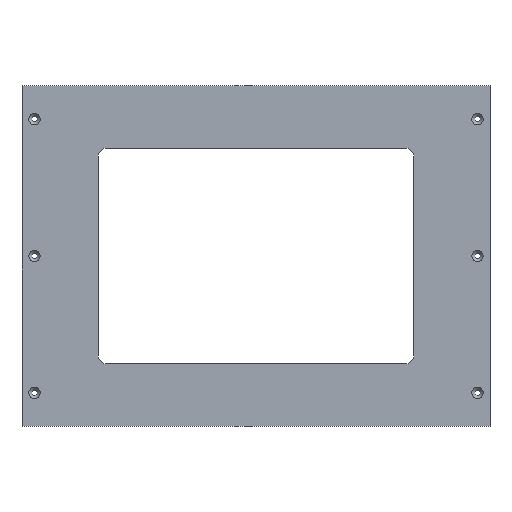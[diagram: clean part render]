
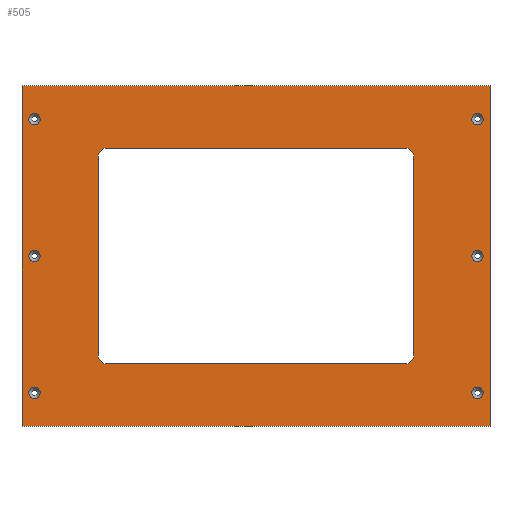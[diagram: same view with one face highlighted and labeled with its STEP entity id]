
A CAD part, top view. The second image highlights one B-rep face of the part: STEP entity #505.
In plain terms, the highlighted planar face has unit normal (0, 0, 1).
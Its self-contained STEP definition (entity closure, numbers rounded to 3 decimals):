
#31=FACE_BOUND('',#112,.T.);
#32=FACE_BOUND('',#113,.T.);
#33=FACE_BOUND('',#114,.T.);
#34=FACE_BOUND('',#115,.T.);
#35=FACE_BOUND('',#116,.T.);
#36=FACE_BOUND('',#117,.T.);
#37=FACE_BOUND('',#118,.T.);
#45=CIRCLE('',#546,6.855);
#46=CIRCLE('',#547,6.855);
#47=CIRCLE('',#548,6.855);
#48=CIRCLE('',#549,6.855);
#49=CIRCLE('',#550,6.855);
#50=CIRCLE('',#551,6.855);
#51=CIRCLE('',#552,10.);
#52=CIRCLE('',#553,10.);
#53=CIRCLE('',#554,10.);
#54=CIRCLE('',#555,10.);
#85=FACE_OUTER_BOUND('',#111,.T.);
#111=EDGE_LOOP('',(#375,#376,#377,#378));
#112=EDGE_LOOP('',(#379));
#113=EDGE_LOOP('',(#380));
#114=EDGE_LOOP('',(#381));
#115=EDGE_LOOP('',(#382));
#116=EDGE_LOOP('',(#383));
#117=EDGE_LOOP('',(#384));
#118=EDGE_LOOP('',(#385,#386,#387,#388,#389,#390,#391,#392));
#145=LINE('',#761,#185);
#149=LINE('',#768,#189);
#152=LINE('',#774,#192);
#155=LINE('',#782,#195);
#159=LINE('',#791,#199);
#161=LINE('',#796,#201);
#167=LINE('',#809,#207);
#170=LINE('',#813,#210);
#185=VECTOR('',#601,1000.);
#189=VECTOR('',#607,1000.);
#192=VECTOR('',#612,1000.);
#195=VECTOR('',#617,1000.);
#199=VECTOR('',#623,1000.);
#201=VECTOR('',#627,1000.);
#207=VECTOR('',#635,1000.);
#210=VECTOR('',#640,1000.);
#225=VERTEX_POINT('',#758);
#226=VERTEX_POINT('',#760);
#228=VERTEX_POINT('',#766);
#230=VERTEX_POINT('',#772);
#233=VERTEX_POINT('',#779);
#234=VERTEX_POINT('',#781);
#237=VERTEX_POINT('',#788);
#238=VERTEX_POINT('',#790);
#239=VERTEX_POINT('',#794);
#240=VERTEX_POINT('',#795);
#245=VERTEX_POINT('',#806);
#246=VERTEX_POINT('',#808);
#247=VERTEX_POINT('',#815);
#248=VERTEX_POINT('',#817);
#249=VERTEX_POINT('',#819);
#250=VERTEX_POINT('',#821);
#251=VERTEX_POINT('',#823);
#252=VERTEX_POINT('',#825);
#273=EDGE_CURVE('',#226,#225,#145,.T.);
#277=EDGE_CURVE('',#225,#228,#149,.T.);
#280=EDGE_CURVE('',#228,#230,#152,.T.);
#283=EDGE_CURVE('',#233,#234,#155,.T.);
#287=EDGE_CURVE('',#237,#238,#159,.T.);
#289=EDGE_CURVE('',#239,#240,#161,.T.);
#295=EDGE_CURVE('',#245,#246,#167,.T.);
#298=EDGE_CURVE('',#230,#226,#170,.T.);
#299=EDGE_CURVE('',#247,#247,#45,.T.);
#300=EDGE_CURVE('',#248,#248,#46,.T.);
#301=EDGE_CURVE('',#249,#249,#47,.T.);
#302=EDGE_CURVE('',#250,#250,#48,.T.);
#303=EDGE_CURVE('',#251,#251,#49,.T.);
#304=EDGE_CURVE('',#252,#252,#50,.T.);
#305=EDGE_CURVE('',#233,#238,#51,.F.);
#306=EDGE_CURVE('',#237,#240,#52,.F.);
#307=EDGE_CURVE('',#239,#246,#53,.F.);
#308=EDGE_CURVE('',#245,#234,#54,.F.);
#375=ORIENTED_EDGE('',*,*,#273,.T.);
#376=ORIENTED_EDGE('',*,*,#277,.T.);
#377=ORIENTED_EDGE('',*,*,#280,.T.);
#378=ORIENTED_EDGE('',*,*,#298,.T.);
#379=ORIENTED_EDGE('',*,*,#299,.T.);
#380=ORIENTED_EDGE('',*,*,#300,.T.);
#381=ORIENTED_EDGE('',*,*,#301,.T.);
#382=ORIENTED_EDGE('',*,*,#302,.T.);
#383=ORIENTED_EDGE('',*,*,#303,.T.);
#384=ORIENTED_EDGE('',*,*,#304,.T.);
#385=ORIENTED_EDGE('',*,*,#283,.F.);
#386=ORIENTED_EDGE('',*,*,#305,.T.);
#387=ORIENTED_EDGE('',*,*,#287,.F.);
#388=ORIENTED_EDGE('',*,*,#306,.T.);
#389=ORIENTED_EDGE('',*,*,#289,.F.);
#390=ORIENTED_EDGE('',*,*,#307,.T.);
#391=ORIENTED_EDGE('',*,*,#295,.F.);
#392=ORIENTED_EDGE('',*,*,#308,.T.);
#495=PLANE('',#545);
#505=ADVANCED_FACE('',(#85,#31,#32,#33,#34,#35,#36,#37),#495,.T.);
#545=AXIS2_PLACEMENT_3D('',#814,#641,#642);
#546=AXIS2_PLACEMENT_3D('',#816,#643,#644);
#547=AXIS2_PLACEMENT_3D('',#818,#645,#646);
#548=AXIS2_PLACEMENT_3D('',#820,#647,#648);
#549=AXIS2_PLACEMENT_3D('',#822,#649,#650);
#550=AXIS2_PLACEMENT_3D('',#824,#651,#652);
#551=AXIS2_PLACEMENT_3D('',#826,#653,#654);
#552=AXIS2_PLACEMENT_3D('',#827,#655,#656);
#553=AXIS2_PLACEMENT_3D('',#828,#657,#658);
#554=AXIS2_PLACEMENT_3D('',#829,#659,#660);
#555=AXIS2_PLACEMENT_3D('',#830,#661,#662);
#601=DIRECTION('',(-1.,0.,0.));
#607=DIRECTION('',(0.,-1.,0.));
#612=DIRECTION('',(1.,0.,0.));
#617=DIRECTION('',(0.,1.,0.));
#623=DIRECTION('',(1.,0.,0.));
#627=DIRECTION('',(0.,-1.,0.));
#635=DIRECTION('',(-1.,0.,0.));
#640=DIRECTION('',(0.,1.,0.));
#641=DIRECTION('center_axis',(0.,0.,1.));
#642=DIRECTION('ref_axis',(1.,0.,0.));
#643=DIRECTION('center_axis',(0.,0.,-1.));
#644=DIRECTION('ref_axis',(0.,1.,0.));
#645=DIRECTION('center_axis',(0.,0.,-1.));
#646=DIRECTION('ref_axis',(0.,1.,0.));
#647=DIRECTION('center_axis',(0.,0.,-1.));
#648=DIRECTION('ref_axis',(0.,1.,0.));
#649=DIRECTION('center_axis',(0.,0.,-1.));
#650=DIRECTION('ref_axis',(0.,1.,0.));
#651=DIRECTION('center_axis',(0.,0.,-1.));
#652=DIRECTION('ref_axis',(0.,1.,0.));
#653=DIRECTION('center_axis',(0.,0.,-1.));
#654=DIRECTION('ref_axis',(0.,1.,0.));
#655=DIRECTION('center_axis',(0.,0.,1.));
#656=DIRECTION('ref_axis',(1.,0.,0.));
#657=DIRECTION('center_axis',(0.,0.,1.));
#658=DIRECTION('ref_axis',(1.,0.,0.));
#659=DIRECTION('center_axis',(0.,0.,1.));
#660=DIRECTION('ref_axis',(1.,0.,0.));
#661=DIRECTION('center_axis',(0.,0.,1.));
#662=DIRECTION('ref_axis',(1.,0.,0.));
#758=CARTESIAN_POINT('',(-282.,205.,6.));
#760=CARTESIAN_POINT('',(282.,205.,6.));
#761=CARTESIAN_POINT('',(282.,205.,6.));
#766=CARTESIAN_POINT('',(-282.,-205.,6.));
#768=CARTESIAN_POINT('',(-282.,205.,6.));
#772=CARTESIAN_POINT('',(282.,-205.,6.));
#774=CARTESIAN_POINT('',(-282.,-205.,6.));
#779=CARTESIAN_POINT('',(190.,-120.,6.));
#781=CARTESIAN_POINT('',(190.,120.,6.));
#782=CARTESIAN_POINT('',(190.,-130.,6.));
#788=CARTESIAN_POINT('',(-180.,-130.,6.));
#790=CARTESIAN_POINT('',(180.,-130.,6.));
#791=CARTESIAN_POINT('',(-190.,-130.,6.));
#794=CARTESIAN_POINT('',(-190.,120.,6.));
#795=CARTESIAN_POINT('',(-190.,-120.,6.));
#796=CARTESIAN_POINT('',(-190.,130.,6.));
#806=CARTESIAN_POINT('',(180.,130.,6.));
#808=CARTESIAN_POINT('',(-180.,130.,6.));
#809=CARTESIAN_POINT('',(190.,130.,6.));
#813=CARTESIAN_POINT('',(282.,-205.,6.));
#814=CARTESIAN_POINT('Origin',(0.,0.,6.));
#815=CARTESIAN_POINT('',(267.,-6.855,6.));
#816=CARTESIAN_POINT('Origin',(267.,0.,6.));
#817=CARTESIAN_POINT('',(-267.,-6.855,6.));
#818=CARTESIAN_POINT('Origin',(-267.,0.,6.));
#819=CARTESIAN_POINT('',(267.,-171.855,6.));
#820=CARTESIAN_POINT('Origin',(267.,-165.,6.));
#821=CARTESIAN_POINT('',(267.,158.145,6.));
#822=CARTESIAN_POINT('Origin',(267.,165.,6.));
#823=CARTESIAN_POINT('',(-267.,-171.855,6.));
#824=CARTESIAN_POINT('Origin',(-267.,-165.,6.));
#825=CARTESIAN_POINT('',(-267.,158.145,6.));
#826=CARTESIAN_POINT('Origin',(-267.,165.,6.));
#827=CARTESIAN_POINT('Origin',(180.,-120.,6.));
#828=CARTESIAN_POINT('Origin',(-180.,-120.,6.));
#829=CARTESIAN_POINT('Origin',(-180.,120.,6.));
#830=CARTESIAN_POINT('Origin',(180.,120.,6.));
